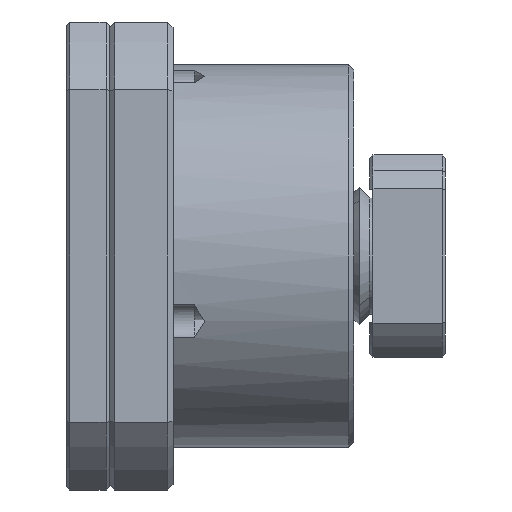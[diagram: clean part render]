
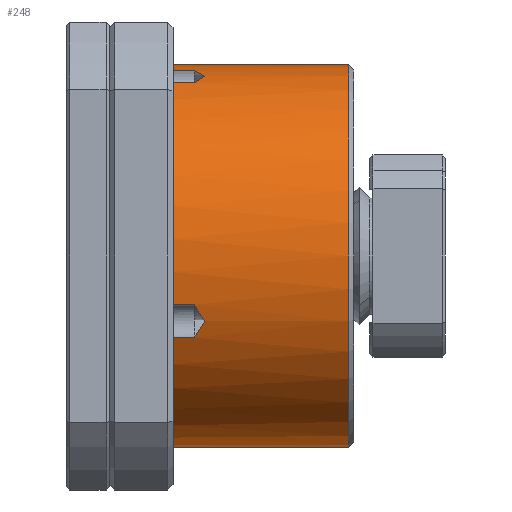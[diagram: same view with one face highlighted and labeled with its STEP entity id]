
A CAD part, front view. The second image highlights one B-rep face of the part: STEP entity #248.
In plain terms, the highlighted cylindrical face has radius 18 mm (diameter 36 mm), a partial arc.
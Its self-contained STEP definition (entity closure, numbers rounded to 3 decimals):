
#173 = LINE ( 'NONE', #3763, #4608 ) ;
#195 = DIRECTION ( 'NONE',  ( -1., 0., 0. ) ) ;
#243 = B_SPLINE_CURVE_WITH_KNOTS ( 'NONE', 3,
 ( #5064, #4497, #6202, #2778 ),
 .UNSPECIFIED., .F., .F.,
 ( 4, 4 ),
 ( 0.002, 0.004 ),
 .UNSPECIFIED. ) ;
#248 = ADVANCED_FACE ( 'NONE', ( #5625 ), #2580, .T. ) ;
#257 = DIRECTION ( 'NONE',  ( 1., 0., 0. ) ) ;
#605 = CARTESIAN_POINT ( 'NONE',  ( 6., -17.407, -4.582 ) ) ;
#624 = CARTESIAN_POINT ( 'NONE',  ( 8., -17.407, -4.582 ) ) ;
#773 = B_SPLINE_CURVE_WITH_KNOTS ( 'NONE', 3,
 ( #5135, #2243, #7410, #1677 ),
 .UNSPECIFIED., .F., .F.,
 ( 4, 4 ),
 ( 0., 0.002 ),
 .UNSPECIFIED. ) ;
#776 = CARTESIAN_POINT ( 'NONE',  ( 4., -16.28, -7.679 ) ) ;
#868 = CARTESIAN_POINT ( 'NONE',  ( 4., -7.679, 16.28 ) ) ;
#889 = ORIENTED_EDGE ( 'NONE', *, *, #2800, .T. ) ;
#1014 = ORIENTED_EDGE ( 'NONE', *, *, #2770, .T. ) ;
#1016 = CARTESIAN_POINT ( 'NONE',  ( 6., 0., 18. ) ) ;
#1022 = VERTEX_POINT ( 'NONE', #4950 ) ;
#1050 = EDGE_CURVE ( 'NONE', #2857, #1022, #2827, .T. ) ;
#1255 = LINE ( 'NONE', #6005, #2444 ) ;
#1269 = VECTOR ( 'NONE', #4972, 1000. ) ;
#1445 = CARTESIAN_POINT ( 'NONE',  ( 8.33, -17.267, -5.113 ) ) ;
#1531 = ORIENTED_EDGE ( 'NONE', *, *, #1050, .F. ) ;
#1533 = CARTESIAN_POINT ( 'NONE',  ( 8.661, -16.726, -6.674 ) ) ;
#1563 = VERTEX_POINT ( 'NONE', #1596 ) ;
#1574 = EDGE_LOOP ( 'NONE', ( #1531, #1014, #4511, #4211, #4215, #7161, #6179, #1584, #3661, #6343, #889, #5259, #5904, #4261 ) ) ;
#1584 = ORIENTED_EDGE ( 'NONE', *, *, #2804, .T. ) ;
#1596 = CARTESIAN_POINT ( 'NONE',  ( 6., -4.582, 17.407 ) ) ;
#1677 = CARTESIAN_POINT ( 'NONE',  ( 8., -7.679, 16.28 ) ) ;
#1923 = AXIS2_PLACEMENT_3D ( 'NONE', #7204, #7263, #3329 ) ;
#1971 = EDGE_CURVE ( 'NONE', #1022, #3202, #4440, .T. ) ;
#2010 = CARTESIAN_POINT ( 'NONE',  ( 22.5, 0., 0. ) ) ;
#2041 = CARTESIAN_POINT ( 'NONE',  ( 8.991, -16.914, -6.156 ) ) ;
#2053 = VECTOR ( 'NONE', #7092, 1000. ) ;
#2230 = LINE ( 'NONE', #776, #2053 ) ;
#2243 = CARTESIAN_POINT ( 'NONE',  ( 8.661, -6.674, 16.726 ) ) ;
#2245 = EDGE_CURVE ( 'NONE', #1563, #6155, #1255, .T. ) ;
#2419 = EDGE_CURVE ( 'NONE', #2528, #7109, #773, .T. ) ;
#2444 = VECTOR ( 'NONE', #257, 1000. ) ;
#2485 = CARTESIAN_POINT ( 'NONE',  ( 6., -16.28, -7.679 ) ) ;
#2528 = VERTEX_POINT ( 'NONE', #4731 ) ;
#2547 = AXIS2_PLACEMENT_3D ( 'NONE', #6776, #3349, #7348 ) ;
#2580 = CYLINDRICAL_SURFACE ( 'NONE', #6516, 18. ) ;
#2601 = DIRECTION ( 'NONE',  ( 0., 0., 1. ) ) ;
#2715 = CARTESIAN_POINT ( 'NONE',  ( 8.33, -16.514, -7.182 ) ) ;
#2770 = EDGE_CURVE ( 'NONE', #2857, #5675, #6026, .T. ) ;
#2778 = CARTESIAN_POINT ( 'NONE',  ( 8.991, -6.156, 16.914 ) ) ;
#2800 = EDGE_CURVE ( 'NONE', #3515, #4976, #4149, .T. ) ;
#2804 = EDGE_CURVE ( 'NONE', #7109, #3809, #5043, .T. ) ;
#2827 = LINE ( 'NONE', #6063, #1269 ) ;
#2857 = VERTEX_POINT ( 'NONE', #3808 ) ;
#2983 = CIRCLE ( 'NONE', #2547, 18. ) ;
#2993 = CARTESIAN_POINT ( 'NONE',  ( 22.5, 0., 18. ) ) ;
#3031 = CARTESIAN_POINT ( 'NONE',  ( 8.991, -16.914, -6.156 ) ) ;
#3202 = VERTEX_POINT ( 'NONE', #2485 ) ;
#3329 = DIRECTION ( 'NONE',  ( 0., 0., 1. ) ) ;
#3349 = DIRECTION ( 'NONE',  ( -1., 0., 0. ) ) ;
#3515 = VERTEX_POINT ( 'NONE', #624 ) ;
#3518 = VECTOR ( 'NONE', #6055, 1000. ) ;
#3571 = AXIS2_PLACEMENT_3D ( 'NONE', #3690, #195, #4258 ) ;
#3639 = EDGE_CURVE ( 'NONE', #6726, #3202, #2230, .T. ) ;
#3661 = ORIENTED_EDGE ( 'NONE', *, *, #6124, .F. ) ;
#3690 = CARTESIAN_POINT ( 'NONE',  ( 6., 0., 0. ) ) ;
#3763 = CARTESIAN_POINT ( 'NONE',  ( 4., -17.407, -4.582 ) ) ;
#3808 = CARTESIAN_POINT ( 'NONE',  ( 22.5, 0., -18. ) ) ;
#3809 = VERTEX_POINT ( 'NONE', #5565 ) ;
#3866 = VERTEX_POINT ( 'NONE', #1016 ) ;
#4149 = B_SPLINE_CURVE_WITH_KNOTS ( 'NONE', 3,
 ( #5479, #1445, #6614, #2041 ),
 .UNSPECIFIED., .F., .F.,
 ( 4, 4 ),
 ( 0.002, 0.004 ),
 .UNSPECIFIED. ) ;
#4211 = ORIENTED_EDGE ( 'NONE', *, *, #6453, .F. ) ;
#4215 = ORIENTED_EDGE ( 'NONE', *, *, #2245, .T. ) ;
#4258 = DIRECTION ( 'NONE',  ( 0., 0., 1. ) ) ;
#4259 = EDGE_CURVE ( 'NONE', #6155, #2528, #243, .T. ) ;
#4261 = ORIENTED_EDGE ( 'NONE', *, *, #1971, .F. ) ;
#4440 = CIRCLE ( 'NONE', #1923, 18. ) ;
#4497 = CARTESIAN_POINT ( 'NONE',  ( 8.33, -5.113, 17.267 ) ) ;
#4511 = ORIENTED_EDGE ( 'NONE', *, *, #4975, .T. ) ;
#4608 = VECTOR ( 'NONE', #4853, 1000. ) ;
#4731 = CARTESIAN_POINT ( 'NONE',  ( 8.991, -6.156, 16.914 ) ) ;
#4853 = DIRECTION ( 'NONE',  ( 1., 0., 0. ) ) ;
#4950 = CARTESIAN_POINT ( 'NONE',  ( 6., 0., -18. ) ) ;
#4972 = DIRECTION ( 'NONE',  ( -1., 0., 0. ) ) ;
#4975 = EDGE_CURVE ( 'NONE', #5675, #3866, #6589, .T. ) ;
#4976 = VERTEX_POINT ( 'NONE', #3031 ) ;
#5043 = LINE ( 'NONE', #868, #3518 ) ;
#5064 = CARTESIAN_POINT ( 'NONE',  ( 8., -4.582, 17.407 ) ) ;
#5135 = CARTESIAN_POINT ( 'NONE',  ( 8.991, -6.156, 16.914 ) ) ;
#5233 = VECTOR ( 'NONE', #6489, 1000. ) ;
#5259 = ORIENTED_EDGE ( 'NONE', *, *, #6115, .T. ) ;
#5460 = CARTESIAN_POINT ( 'NONE',  ( -5.326, 0., 0. ) ) ;
#5479 = CARTESIAN_POINT ( 'NONE',  ( 8., -17.407, -4.582 ) ) ;
#5565 = CARTESIAN_POINT ( 'NONE',  ( 6., -7.679, 16.28 ) ) ;
#5569 = CARTESIAN_POINT ( 'NONE',  ( 8.991, -16.914, -6.156 ) ) ;
#5625 = FACE_OUTER_BOUND ( 'NONE', #1574, .T. ) ;
#5675 = VERTEX_POINT ( 'NONE', #2993 ) ;
#5740 = EDGE_CURVE ( 'NONE', #5815, #3515, #173, .T. ) ;
#5757 = CIRCLE ( 'NONE', #3571, 18. ) ;
#5815 = VERTEX_POINT ( 'NONE', #605 ) ;
#5904 = ORIENTED_EDGE ( 'NONE', *, *, #3639, .T. ) ;
#5907 = CARTESIAN_POINT ( 'NONE',  ( -5.326, 0., 18. ) ) ;
#6005 = CARTESIAN_POINT ( 'NONE',  ( 4., -4.582, 17.407 ) ) ;
#6026 = CIRCLE ( 'NONE', #6512, 18. ) ;
#6030 = DIRECTION ( 'NONE',  ( -1., 0., 0. ) ) ;
#6040 = DIRECTION ( 'NONE',  ( 0., 0., 1. ) ) ;
#6055 = DIRECTION ( 'NONE',  ( -1., 0., 0. ) ) ;
#6063 = CARTESIAN_POINT ( 'NONE',  ( -5.326, 0., -18. ) ) ;
#6077 = CARTESIAN_POINT ( 'NONE',  ( 8., -7.679, 16.28 ) ) ;
#6115 = EDGE_CURVE ( 'NONE', #4976, #6726, #6322, .T. ) ;
#6124 = EDGE_CURVE ( 'NONE', #5815, #3809, #2983, .T. ) ;
#6155 = VERTEX_POINT ( 'NONE', #7373 ) ;
#6179 = ORIENTED_EDGE ( 'NONE', *, *, #2419, .T. ) ;
#6202 = CARTESIAN_POINT ( 'NONE',  ( 8.661, -5.64, 17.102 ) ) ;
#6322 = B_SPLINE_CURVE_WITH_KNOTS ( 'NONE', 3,
 ( #5569, #1533, #2715, #6736 ),
 .UNSPECIFIED., .F., .F.,
 ( 4, 4 ),
 ( 0., 0.002 ),
 .UNSPECIFIED. ) ;
#6343 = ORIENTED_EDGE ( 'NONE', *, *, #5740, .T. ) ;
#6453 = EDGE_CURVE ( 'NONE', #1563, #3866, #5757, .T. ) ;
#6489 = DIRECTION ( 'NONE',  ( -1., 0., 0. ) ) ;
#6512 = AXIS2_PLACEMENT_3D ( 'NONE', #2010, #6030, #2601 ) ;
#6516 = AXIS2_PLACEMENT_3D ( 'NONE', #5460, #6627, #6040 ) ;
#6589 = LINE ( 'NONE', #5907, #5233 ) ;
#6614 = CARTESIAN_POINT ( 'NONE',  ( 8.661, -17.102, -5.64 ) ) ;
#6627 = DIRECTION ( 'NONE',  ( -1., 0., 0. ) ) ;
#6726 = VERTEX_POINT ( 'NONE', #6852 ) ;
#6736 = CARTESIAN_POINT ( 'NONE',  ( 8., -16.28, -7.679 ) ) ;
#6776 = CARTESIAN_POINT ( 'NONE',  ( 6., 0., 0. ) ) ;
#6852 = CARTESIAN_POINT ( 'NONE',  ( 8., -16.28, -7.679 ) ) ;
#7092 = DIRECTION ( 'NONE',  ( -1., 0., 0. ) ) ;
#7109 = VERTEX_POINT ( 'NONE', #6077 ) ;
#7161 = ORIENTED_EDGE ( 'NONE', *, *, #4259, .T. ) ;
#7204 = CARTESIAN_POINT ( 'NONE',  ( 6., 0., 0. ) ) ;
#7263 = DIRECTION ( 'NONE',  ( -1., 0., 0. ) ) ;
#7348 = DIRECTION ( 'NONE',  ( 0., 0., 1. ) ) ;
#7373 = CARTESIAN_POINT ( 'NONE',  ( 8., -4.582, 17.407 ) ) ;
#7410 = CARTESIAN_POINT ( 'NONE',  ( 8.33, -7.182, 16.514 ) ) ;
